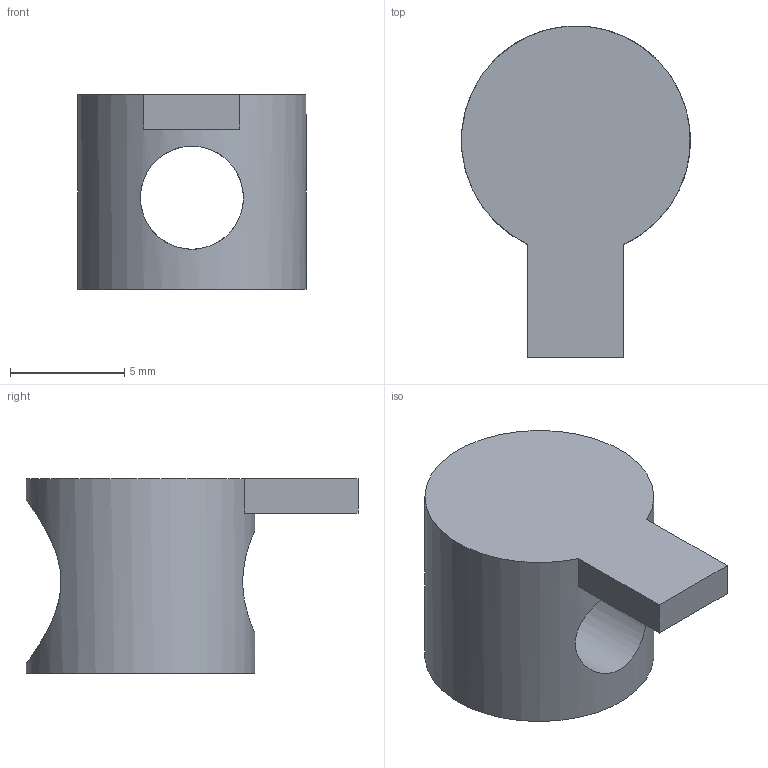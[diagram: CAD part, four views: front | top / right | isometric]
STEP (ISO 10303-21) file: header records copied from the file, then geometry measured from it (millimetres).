
FILE_DESCRIPTION(/* description */ ('Unknown'),/* implementation_level */ '2;1');
FILE_NAME(/* name */ 'NUJ0410',/* time_stamp */ '2026-08-31T13:36:42+08:00',/* author */ ('Unknown'),/* organization */ ('Unknown'),/* preprocessor_version */ 'ST-DEVELOPER v16.7',/* originating_system */ 'DEX',/* authorisation */ $);
FILE_SCHEMA (('AUTOMOTIVE_DESIGN {1 0 10303 214 3 1 1}'));
Length unit declared in the file: millimetre
Products named in the file (1): NUJ0410
Bounding box: 9.99 x 14.5 x 8.5 mm (x, y, z)
Volume: 392.9 mm3; surface area: 618.6 mm2
Topology: 1 solids, 1 shells, 10 faces, 26 edges, 18 vertices
Faces by surface type: plane 7, cylinder 3
Full cylindrical faces by diameter (mm): 4.5 x1, 7.2 x1, 10 x1
Entity records: 304 total; most frequent: CARTESIAN_POINT 69, DIRECTION 42, ORIENTED_EDGE 34, EDGE_CURVE 17, EDGE_LOOP 16, FACE_BOUND 16, AXIS2_PLACEMENT_3D 16, VERTEX_POINT 13
